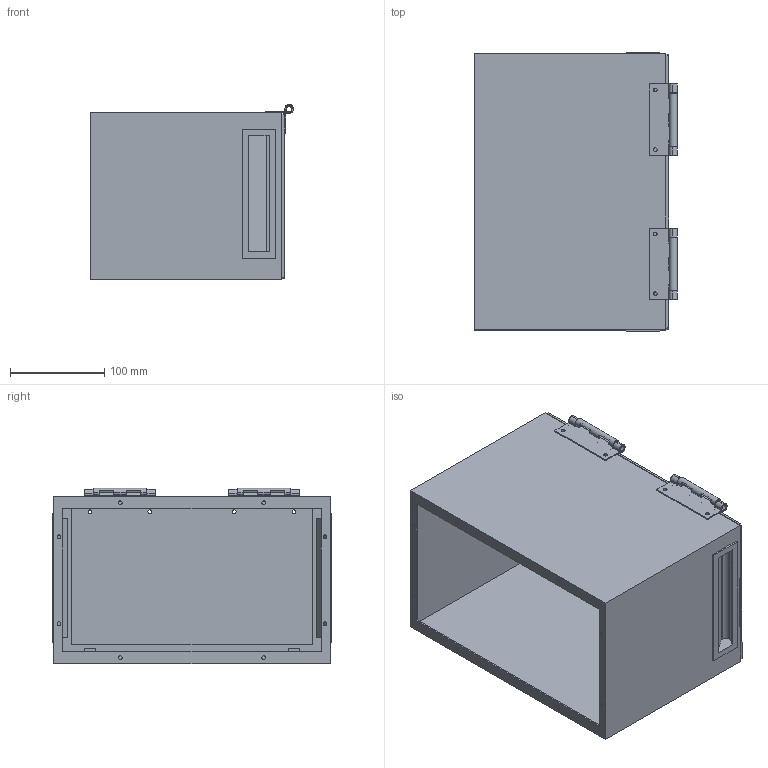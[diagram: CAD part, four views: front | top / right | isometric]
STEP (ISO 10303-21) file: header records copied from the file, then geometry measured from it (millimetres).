
FILE_DESCRIPTION (( 'STEP AP214' ), '1' );
FILE_NAME ('410112668_customer-model.STEP', '2006-12-13T17:07:41', ( 'jon' ), ( '' ), 'SwSTEP 2.0', 'SolidWorks 2006233', '' );
FILE_SCHEMA (( 'AUTOMOTIVE_DESIGN' ));
Length unit declared in the file: inch
Products named in the file (3): enclosure; 410112668_customer-model; lid
Assembly tree (2 placements, depth 2):
  410112668_customer-model
    enclosure
    lid
Bounding box: 215.54 x 296.93 x 186.23 mm (x, y, z)
Volume: 510236 mm3; surface area: 556904.8 mm2
Topology: 4 solids, 4 shells, 487 faces, 1278 edges, 790 vertices
Faces by surface type: plane 189, cylinder 142, bspline 136, cone 12, torus 8
Entity records: 18254 total; most frequent: CARTESIAN_POINT 7198, ORIENTED_EDGE 2492, DIRECTION 1990, EDGE_CURVE 1246, VERTEX_POINT 786, AXIS2_PLACEMENT_3D 692, VECTOR 606, LINE 606
